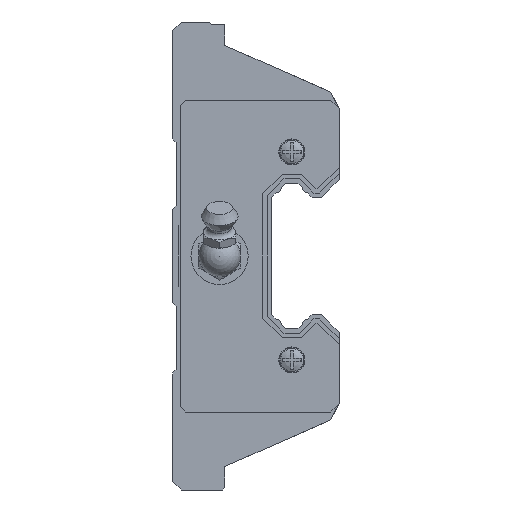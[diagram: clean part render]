
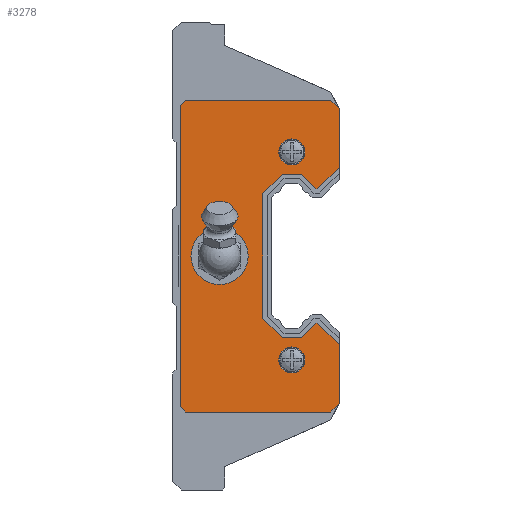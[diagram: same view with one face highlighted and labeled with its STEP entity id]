
A CAD part, left-side view. The second image highlights one B-rep face of the part: STEP entity #3278.
In plain terms, the highlighted planar face has unit normal (-1, 0, 0) as drawn and (1, 0, 0) by its records, which use the part's own axes.
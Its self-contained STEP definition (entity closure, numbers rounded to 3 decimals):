
#3260 = VERTEX_POINT('',#3261);
#3261 = CARTESIAN_POINT('',(3.,19.1,22.5));
#3266 = EDGE_CURVE('',#3260,#3260,#3267,.T.);
#3267 = CIRCLE('',#3268,2.5);
#3268 = AXIS2_PLACEMENT_3D('',#3269,#3270,#3271);
#3269 = CARTESIAN_POINT('',(3.,19.1,20.));
#3270 = DIRECTION('',(-1.,0.,0.));
#3271 = DIRECTION('',(0.,0.,1.));
#3278 = ADVANCED_FACE('',(#3279,#3441,#3444,#3455),#3466,.T.);
#3279 = FACE_BOUND('',#3280,.T.);
#3280 = EDGE_LOOP('',(#3281,#3291,#3299,#3307,#3315,#3323,#3331,#3339,
    #3347,#3355,#3363,#3371,#3379,#3387,#3395,#3403,#3411,#3419,#3427,
    #3435));
#3281 = ORIENTED_EDGE('',*,*,#3282,.F.);
#3282 = EDGE_CURVE('',#3283,#3285,#3287,.T.);
#3283 = VERTEX_POINT('',#3284);
#3284 = CARTESIAN_POINT('',(3.,14.126,12.95));
#3285 = VERTEX_POINT('',#3286);
#3286 = CARTESIAN_POINT('',(3.,10.,17.076));
#3287 = LINE('',#3288,#3289);
#3288 = CARTESIAN_POINT('',(3.,14.126,12.95));
#3289 = VECTOR('',#3290,1.);
#3290 = DIRECTION('',(0.,-0.707,0.707));
#3291 = ORIENTED_EDGE('',*,*,#3292,.F.);
#3292 = EDGE_CURVE('',#3293,#3283,#3295,.T.);
#3293 = VERTEX_POINT('',#3294);
#3294 = CARTESIAN_POINT('',(3.,14.504,12.95));
#3295 = LINE('',#3296,#3297);
#3296 = CARTESIAN_POINT('',(3.,14.504,12.95));
#3297 = VECTOR('',#3298,1.);
#3298 = DIRECTION('',(0.,-1.,0.));
#3299 = ORIENTED_EDGE('',*,*,#3300,.F.);
#3300 = EDGE_CURVE('',#3301,#3293,#3303,.T.);
#3301 = VERTEX_POINT('',#3302);
#3302 = CARTESIAN_POINT('',(3.,17.234,15.68));
#3303 = LINE('',#3304,#3305);
#3304 = CARTESIAN_POINT('',(3.,17.234,15.68));
#3305 = VECTOR('',#3306,1.);
#3306 = DIRECTION('',(0.,-0.707,-0.707));
#3307 = ORIENTED_EDGE('',*,*,#3308,.F.);
#3308 = EDGE_CURVE('',#3309,#3301,#3311,.T.);
#3309 = VERTEX_POINT('',#3310);
#3310 = CARTESIAN_POINT('',(3.,20.966,15.68));
#3311 = LINE('',#3312,#3313);
#3312 = CARTESIAN_POINT('',(3.,20.966,15.68));
#3313 = VECTOR('',#3314,1.);
#3314 = DIRECTION('',(0.,-1.,0.));
#3315 = ORIENTED_EDGE('',*,*,#3316,.F.);
#3316 = EDGE_CURVE('',#3317,#3309,#3319,.T.);
#3317 = VERTEX_POINT('',#3318);
#3318 = CARTESIAN_POINT('',(3.,24.68,11.966));
#3319 = LINE('',#3320,#3321);
#3320 = CARTESIAN_POINT('',(3.,24.68,11.966));
#3321 = VECTOR('',#3322,1.);
#3322 = DIRECTION('',(0.,-0.707,0.707));
#3323 = ORIENTED_EDGE('',*,*,#3324,.F.);
#3324 = EDGE_CURVE('',#3325,#3317,#3327,.T.);
#3325 = VERTEX_POINT('',#3326);
#3326 = CARTESIAN_POINT('',(3.,24.68,-11.966));
#3327 = LINE('',#3328,#3329);
#3328 = CARTESIAN_POINT('',(3.,24.68,-11.966));
#3329 = VECTOR('',#3330,1.);
#3330 = DIRECTION('',(0.,0.,1.));
#3331 = ORIENTED_EDGE('',*,*,#3332,.F.);
#3332 = EDGE_CURVE('',#3333,#3325,#3335,.T.);
#3333 = VERTEX_POINT('',#3334);
#3334 = CARTESIAN_POINT('',(3.,20.966,-15.68));
#3335 = LINE('',#3336,#3337);
#3336 = CARTESIAN_POINT('',(3.,20.966,-15.68));
#3337 = VECTOR('',#3338,1.);
#3338 = DIRECTION('',(0.,0.707,0.707));
#3339 = ORIENTED_EDGE('',*,*,#3340,.F.);
#3340 = EDGE_CURVE('',#3341,#3333,#3343,.T.);
#3341 = VERTEX_POINT('',#3342);
#3342 = CARTESIAN_POINT('',(3.,17.234,-15.68));
#3343 = LINE('',#3344,#3345);
#3344 = CARTESIAN_POINT('',(3.,17.234,-15.68));
#3345 = VECTOR('',#3346,1.);
#3346 = DIRECTION('',(0.,1.,0.));
#3347 = ORIENTED_EDGE('',*,*,#3348,.F.);
#3348 = EDGE_CURVE('',#3349,#3341,#3351,.T.);
#3349 = VERTEX_POINT('',#3350);
#3350 = CARTESIAN_POINT('',(3.,14.504,-12.95));
#3351 = LINE('',#3352,#3353);
#3352 = CARTESIAN_POINT('',(3.,14.504,-12.95));
#3353 = VECTOR('',#3354,1.);
#3354 = DIRECTION('',(0.,0.707,-0.707));
#3355 = ORIENTED_EDGE('',*,*,#3356,.F.);
#3356 = EDGE_CURVE('',#3357,#3349,#3359,.T.);
#3357 = VERTEX_POINT('',#3358);
#3358 = CARTESIAN_POINT('',(3.,14.126,-12.95));
#3359 = LINE('',#3360,#3361);
#3360 = CARTESIAN_POINT('',(3.,14.126,-12.95));
#3361 = VECTOR('',#3362,1.);
#3362 = DIRECTION('',(0.,1.,0.));
#3363 = ORIENTED_EDGE('',*,*,#3364,.F.);
#3364 = EDGE_CURVE('',#3365,#3357,#3367,.T.);
#3365 = VERTEX_POINT('',#3366);
#3366 = CARTESIAN_POINT('',(3.,10.,-17.076));
#3367 = LINE('',#3368,#3369);
#3368 = CARTESIAN_POINT('',(3.,10.,-17.076));
#3369 = VECTOR('',#3370,1.);
#3370 = DIRECTION('',(0.,0.707,0.707));
#3371 = ORIENTED_EDGE('',*,*,#3372,.T.);
#3372 = EDGE_CURVE('',#3365,#3373,#3375,.T.);
#3373 = VERTEX_POINT('',#3374);
#3374 = CARTESIAN_POINT('',(3.,10.,-28.4));
#3375 = LINE('',#3376,#3377);
#3376 = CARTESIAN_POINT('',(3.,10.,28.4));
#3377 = VECTOR('',#3378,1.);
#3378 = DIRECTION('',(0.,0.,-1.));
#3379 = ORIENTED_EDGE('',*,*,#3380,.T.);
#3380 = EDGE_CURVE('',#3373,#3381,#3383,.T.);
#3381 = VERTEX_POINT('',#3382);
#3382 = CARTESIAN_POINT('',(3.,11.6,-30.));
#3383 = LINE('',#3384,#3385);
#3384 = CARTESIAN_POINT('',(3.,10.,-28.4));
#3385 = VECTOR('',#3386,1.);
#3386 = DIRECTION('',(0.,0.707,-0.707));
#3387 = ORIENTED_EDGE('',*,*,#3388,.T.);
#3388 = EDGE_CURVE('',#3381,#3389,#3391,.T.);
#3389 = VERTEX_POINT('',#3390);
#3390 = CARTESIAN_POINT('',(3.,39.6,-30.));
#3391 = LINE('',#3392,#3393);
#3392 = CARTESIAN_POINT('',(3.,11.6,-30.));
#3393 = VECTOR('',#3394,1.);
#3394 = DIRECTION('',(0.,1.,0.));
#3395 = ORIENTED_EDGE('',*,*,#3396,.T.);
#3396 = EDGE_CURVE('',#3389,#3397,#3399,.T.);
#3397 = VERTEX_POINT('',#3398);
#3398 = CARTESIAN_POINT('',(3.,40.6,-29.));
#3399 = LINE('',#3400,#3401);
#3400 = CARTESIAN_POINT('',(3.,39.6,-30.));
#3401 = VECTOR('',#3402,1.);
#3402 = DIRECTION('',(0.,0.707,0.707));
#3403 = ORIENTED_EDGE('',*,*,#3404,.T.);
#3404 = EDGE_CURVE('',#3397,#3405,#3407,.T.);
#3405 = VERTEX_POINT('',#3406);
#3406 = CARTESIAN_POINT('',(3.,40.6,29.));
#3407 = LINE('',#3408,#3409);
#3408 = CARTESIAN_POINT('',(3.,40.6,-29.));
#3409 = VECTOR('',#3410,1.);
#3410 = DIRECTION('',(0.,0.,1.));
#3411 = ORIENTED_EDGE('',*,*,#3412,.T.);
#3412 = EDGE_CURVE('',#3405,#3413,#3415,.T.);
#3413 = VERTEX_POINT('',#3414);
#3414 = CARTESIAN_POINT('',(3.,39.6,30.));
#3415 = LINE('',#3416,#3417);
#3416 = CARTESIAN_POINT('',(3.,40.6,29.));
#3417 = VECTOR('',#3418,1.);
#3418 = DIRECTION('',(0.,-0.707,0.707));
#3419 = ORIENTED_EDGE('',*,*,#3420,.T.);
#3420 = EDGE_CURVE('',#3413,#3421,#3423,.T.);
#3421 = VERTEX_POINT('',#3422);
#3422 = CARTESIAN_POINT('',(3.,11.6,30.));
#3423 = LINE('',#3424,#3425);
#3424 = CARTESIAN_POINT('',(3.,39.6,30.));
#3425 = VECTOR('',#3426,1.);
#3426 = DIRECTION('',(0.,-1.,0.));
#3427 = ORIENTED_EDGE('',*,*,#3428,.T.);
#3428 = EDGE_CURVE('',#3421,#3429,#3431,.T.);
#3429 = VERTEX_POINT('',#3430);
#3430 = CARTESIAN_POINT('',(3.,10.,28.4));
#3431 = LINE('',#3432,#3433);
#3432 = CARTESIAN_POINT('',(3.,11.6,30.));
#3433 = VECTOR('',#3434,1.);
#3434 = DIRECTION('',(0.,-0.707,-0.707));
#3435 = ORIENTED_EDGE('',*,*,#3436,.T.);
#3436 = EDGE_CURVE('',#3429,#3285,#3437,.T.);
#3437 = LINE('',#3438,#3439);
#3438 = CARTESIAN_POINT('',(3.,10.,28.4));
#3439 = VECTOR('',#3440,1.);
#3440 = DIRECTION('',(0.,0.,-1.));
#3441 = FACE_BOUND('',#3442,.T.);
#3442 = EDGE_LOOP('',(#3443));
#3443 = ORIENTED_EDGE('',*,*,#3266,.T.);
#3444 = FACE_BOUND('',#3445,.T.);
#3445 = EDGE_LOOP('',(#3446));
#3446 = ORIENTED_EDGE('',*,*,#3447,.T.);
#3447 = EDGE_CURVE('',#3448,#3448,#3450,.T.);
#3448 = VERTEX_POINT('',#3449);
#3449 = CARTESIAN_POINT('',(3.,19.1,-17.5));
#3450 = CIRCLE('',#3451,2.5);
#3451 = AXIS2_PLACEMENT_3D('',#3452,#3453,#3454);
#3452 = CARTESIAN_POINT('',(3.,19.1,-20.));
#3453 = DIRECTION('',(-1.,0.,0.));
#3454 = DIRECTION('',(0.,0.,1.));
#3455 = FACE_BOUND('',#3456,.T.);
#3456 = EDGE_LOOP('',(#3457));
#3457 = ORIENTED_EDGE('',*,*,#3458,.F.);
#3458 = EDGE_CURVE('',#3459,#3459,#3461,.T.);
#3459 = VERTEX_POINT('',#3460);
#3460 = CARTESIAN_POINT('',(3.,33.,-5.5));
#3461 = CIRCLE('',#3462,5.5);
#3462 = AXIS2_PLACEMENT_3D('',#3463,#3464,#3465);
#3463 = CARTESIAN_POINT('',(3.,33.,0.));
#3464 = DIRECTION('',(1.,0.,0.));
#3465 = DIRECTION('',(0.,0.,-1.));
#3466 = PLANE('',#3467);
#3467 = AXIS2_PLACEMENT_3D('',#3468,#3469,#3470);
#3468 = CARTESIAN_POINT('',(3.,0.,0.));
#3469 = DIRECTION('',(1.,0.,0.));
#3470 = DIRECTION('',(0.,0.,1.));
